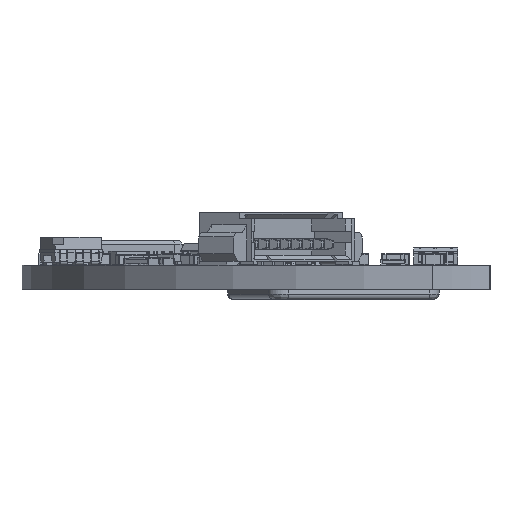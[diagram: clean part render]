
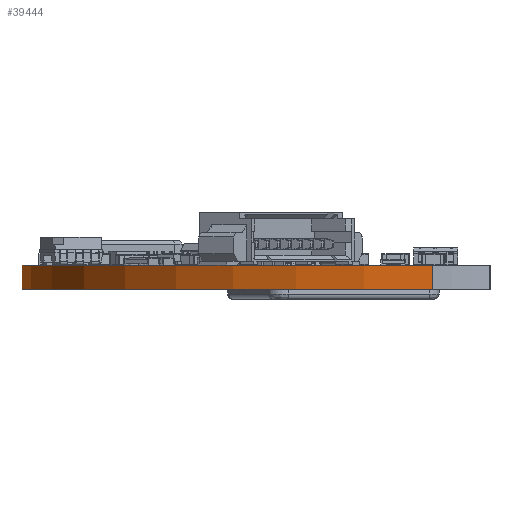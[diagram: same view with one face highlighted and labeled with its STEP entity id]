
A CAD part, left-side view. The second image highlights one B-rep face of the part: STEP entity #39444.
In plain terms, the highlighted cylindrical face has radius 27 mm (diameter 54 mm), a partial arc.
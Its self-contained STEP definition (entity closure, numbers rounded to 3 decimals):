
#1480 = CARTESIAN_POINT ( 'NONE',  ( 3.187, 26.811, -1.599 ) ) ;
#5017 = EDGE_CURVE ( 'NONE', #117335, #31045, #51227, .T. ) ;
#9555 = CARTESIAN_POINT ( 'NONE',  ( 0., 0., 0. ) ) ;
#9960 = CARTESIAN_POINT ( 'NONE',  ( 0., 0., -1.6 ) ) ;
#10950 = AXIS2_PLACEMENT_3D ( 'NONE', #9960, #157434, #121101 ) ;
#11127 = DIRECTION ( 'NONE',  ( 0., 0., -1. ) ) ;
#12547 = ORIENTED_EDGE ( 'NONE', *, *, #60694, .T. ) ;
#16907 = CARTESIAN_POINT ( 'NONE',  ( -27., 0., 0. ) ) ;
#22852 = DIRECTION ( 'NONE',  ( 0., 0., 1. ) ) ;
#27952 = AXIS2_PLACEMENT_3D ( 'NONE', #9555, #11127, #135338 ) ;
#31045 = VERTEX_POINT ( 'NONE', #75830 ) ;
#34134 = LINE ( 'NONE', #127803, #88382 ) ;
#37883 = DIRECTION ( 'NONE',  ( 0., 0., -1. ) ) ;
#39444 = ADVANCED_FACE ( 'NONE', ( #41479 ), #136438, .T. ) ;
#41479 = FACE_OUTER_BOUND ( 'NONE', #74014, .T. ) ;
#44743 = EDGE_CURVE ( 'NONE', #89995, #117335, #34134, .T. ) ;
#51227 = CIRCLE ( 'NONE', #136933, 27. ) ;
#54933 = CARTESIAN_POINT ( 'NONE',  ( 3.187, 26.811, 0. ) ) ;
#55285 = EDGE_CURVE ( 'NONE', #63337, #31045, #72509, .T. ) ;
#60694 = EDGE_CURVE ( 'NONE', #63337, #89995, #64981, .T. ) ;
#63337 = VERTEX_POINT ( 'NONE', #16907 ) ;
#64981 = CIRCLE ( 'NONE', #27952, 27. ) ;
#72509 = LINE ( 'NONE', #84566, #117089 ) ;
#74014 = EDGE_LOOP ( 'NONE', ( #88068, #12547, #85234, #115265 ) ) ;
#75830 = CARTESIAN_POINT ( 'NONE',  ( -27., 0., -1.599 ) ) ;
#84566 = CARTESIAN_POINT ( 'NONE',  ( -27., 0., -1.6 ) ) ;
#85234 = ORIENTED_EDGE ( 'NONE', *, *, #44743, .T. ) ;
#88068 = ORIENTED_EDGE ( 'NONE', *, *, #55285, .F. ) ;
#88382 = VECTOR ( 'NONE', #37883, 1000. ) ;
#89995 = VERTEX_POINT ( 'NONE', #54933 ) ;
#115265 = ORIENTED_EDGE ( 'NONE', *, *, #5017, .T. ) ;
#117089 = VECTOR ( 'NONE', #122991, 1000. ) ;
#117335 = VERTEX_POINT ( 'NONE', #1480 ) ;
#121101 = DIRECTION ( 'NONE',  ( -1., 0., 0. ) ) ;
#122557 = CARTESIAN_POINT ( 'NONE',  ( 0., 0., -1.599 ) ) ;
#122991 = DIRECTION ( 'NONE',  ( 0., 0., -1. ) ) ;
#127803 = CARTESIAN_POINT ( 'NONE',  ( 3.187, 26.811, -1.6 ) ) ;
#135039 = DIRECTION ( 'NONE',  ( -1., 0., 0. ) ) ;
#135338 = DIRECTION ( 'NONE',  ( -1., 0., 0. ) ) ;
#136438 = CYLINDRICAL_SURFACE ( 'NONE', #10950, 27. ) ;
#136933 = AXIS2_PLACEMENT_3D ( 'NONE', #122557, #22852, #135039 ) ;
#157434 = DIRECTION ( 'NONE',  ( 0., 0., -1. ) ) ;
